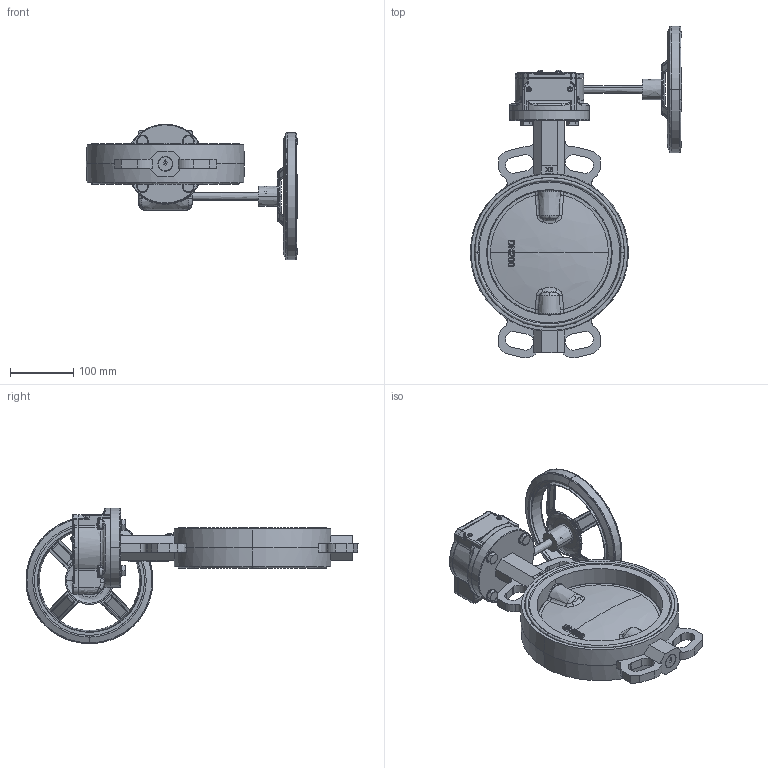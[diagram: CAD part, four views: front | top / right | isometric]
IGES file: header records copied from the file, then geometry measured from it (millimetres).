
Start section: SolidWorks IGES file using NURBS representation for surfaces
Global section: file name: H:\BE BIBLIOTHEQUE 3D\Projet_Biblio3D_2016\FSK\VPI\VPI-02\VPI-08 DN200.Igs; native system: SolidWorks 2014; preprocessor: SolidWorks 2014; author: a.cartier; date: 160929.160118; units: millimetre
Bounding box: 333.35 x 523.42 x 213.7 mm (x, y, z)
Volume: 2541937.2 mm3; surface area: 587512.5 mm2
Topology: 36 solids, 36 shells, 3155 faces, 8138 edges, 5021 vertices
Faces by surface type: bspline 3155
